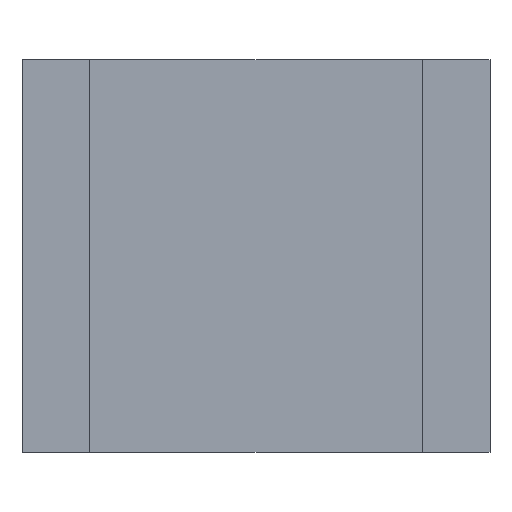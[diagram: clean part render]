
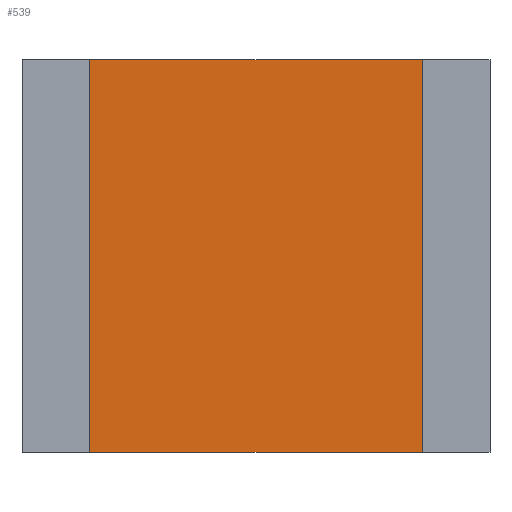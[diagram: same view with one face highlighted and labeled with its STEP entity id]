
A CAD part, front view. The second image highlights one B-rep face of the part: STEP entity #539.
In plain terms, the highlighted planar face has unit normal (0, -1, 0).
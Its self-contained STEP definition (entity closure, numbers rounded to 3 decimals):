
#32 = PLANE('',#33);
#33 = AXIS2_PLACEMENT_3D('',#34,#35,#36);
#34 = CARTESIAN_POINT('',(0.,0.275,-1.3));
#35 = DIRECTION('',(0.,0.,-1.));
#36 = DIRECTION('',(0.,1.,0.));
#136 = VERTEX_POINT('',#137);
#137 = CARTESIAN_POINT('',(1.1,0.15,-1.3));
#158 = EDGE_CURVE('',#136,#159,#161,.T.);
#159 = VERTEX_POINT('',#160);
#160 = CARTESIAN_POINT('',(-1.1,0.15,-1.3));
#161 = SURFACE_CURVE('',#162,(#166,#173),.PCURVE_S1.);
#162 = LINE('',#163,#164);
#163 = CARTESIAN_POINT('',(1.4,0.15,-1.3));
#164 = VECTOR('',#165,1.);
#165 = DIRECTION('',(-1.,0.,0.));
#166 = PCURVE('',#32,#167);
#167 = DEFINITIONAL_REPRESENTATION('',(#168),#172);
#168 = LINE('',#169,#170);
#169 = CARTESIAN_POINT('',(-0.125,1.4));
#170 = VECTOR('',#171,1.);
#171 = DIRECTION('',(0.,-1.));
#172 = ( GEOMETRIC_REPRESENTATION_CONTEXT(2) 
PARAMETRIC_REPRESENTATION_CONTEXT() REPRESENTATION_CONTEXT('2D SPACE',''
  ) );
#173 = PCURVE('',#174,#179);
#174 = PLANE('',#175);
#175 = AXIS2_PLACEMENT_3D('',#176,#177,#178);
#176 = CARTESIAN_POINT('',(1.4,0.15,-1.3));
#177 = DIRECTION('',(0.,-1.,0.));
#178 = DIRECTION('',(-1.,0.,0.));
#179 = DEFINITIONAL_REPRESENTATION('',(#180),#184);
#180 = LINE('',#181,#182);
#181 = CARTESIAN_POINT('',(0.,-0.));
#182 = VECTOR('',#183,1.);
#183 = DIRECTION('',(1.,0.));
#184 = ( GEOMETRIC_REPRESENTATION_CONTEXT(2) 
PARAMETRIC_REPRESENTATION_CONTEXT() REPRESENTATION_CONTEXT('2D SPACE',''
  ) );
#333 = PLANE('',#334);
#334 = AXIS2_PLACEMENT_3D('',#335,#336,#337);
#335 = CARTESIAN_POINT('',(-1.1,0.,-1.3));
#336 = DIRECTION('',(-1.,0.,0.));
#337 = DIRECTION('',(0.,1.,0.));
#524 = PLANE('',#525);
#525 = AXIS2_PLACEMENT_3D('',#526,#527,#528);
#526 = CARTESIAN_POINT('',(1.1,0.,-1.3));
#527 = DIRECTION('',(-1.,0.,0.));
#528 = DIRECTION('',(0.,1.,0.));
#539 = ADVANCED_FACE('',(#540),#174,.T.);
#540 = FACE_BOUND('',#541,.T.);
#541 = EDGE_LOOP('',(#542,#543,#566,#594));
#542 = ORIENTED_EDGE('',*,*,#158,.F.);
#543 = ORIENTED_EDGE('',*,*,#544,.T.);
#544 = EDGE_CURVE('',#136,#545,#547,.T.);
#545 = VERTEX_POINT('',#546);
#546 = CARTESIAN_POINT('',(1.1,0.15,1.3));
#547 = SURFACE_CURVE('',#548,(#552,#559),.PCURVE_S1.);
#548 = LINE('',#549,#550);
#549 = CARTESIAN_POINT('',(1.1,0.15,-1.3));
#550 = VECTOR('',#551,1.);
#551 = DIRECTION('',(0.,0.,1.));
#552 = PCURVE('',#174,#553);
#553 = DEFINITIONAL_REPRESENTATION('',(#554),#558);
#554 = LINE('',#555,#556);
#555 = CARTESIAN_POINT('',(0.3,0.));
#556 = VECTOR('',#557,1.);
#557 = DIRECTION('',(0.,-1.));
#558 = ( GEOMETRIC_REPRESENTATION_CONTEXT(2) 
PARAMETRIC_REPRESENTATION_CONTEXT() REPRESENTATION_CONTEXT('2D SPACE',''
  ) );
#559 = PCURVE('',#524,#560);
#560 = DEFINITIONAL_REPRESENTATION('',(#561),#565);
#561 = LINE('',#562,#563);
#562 = CARTESIAN_POINT('',(0.15,0.));
#563 = VECTOR('',#564,1.);
#564 = DIRECTION('',(0.,-1.));
#565 = ( GEOMETRIC_REPRESENTATION_CONTEXT(2) 
PARAMETRIC_REPRESENTATION_CONTEXT() REPRESENTATION_CONTEXT('2D SPACE',''
  ) );
#566 = ORIENTED_EDGE('',*,*,#567,.T.);
#567 = EDGE_CURVE('',#545,#568,#570,.T.);
#568 = VERTEX_POINT('',#569);
#569 = CARTESIAN_POINT('',(-1.1,0.15,1.3));
#570 = SURFACE_CURVE('',#571,(#575,#582),.PCURVE_S1.);
#571 = LINE('',#572,#573);
#572 = CARTESIAN_POINT('',(1.4,0.15,1.3));
#573 = VECTOR('',#574,1.);
#574 = DIRECTION('',(-1.,0.,0.));
#575 = PCURVE('',#174,#576);
#576 = DEFINITIONAL_REPRESENTATION('',(#577),#581);
#577 = LINE('',#578,#579);
#578 = CARTESIAN_POINT('',(0.,-2.6));
#579 = VECTOR('',#580,1.);
#580 = DIRECTION('',(1.,0.));
#581 = ( GEOMETRIC_REPRESENTATION_CONTEXT(2) 
PARAMETRIC_REPRESENTATION_CONTEXT() REPRESENTATION_CONTEXT('2D SPACE',''
  ) );
#582 = PCURVE('',#583,#588);
#583 = PLANE('',#584);
#584 = AXIS2_PLACEMENT_3D('',#585,#586,#587);
#585 = CARTESIAN_POINT('',(0.,0.275,1.3));
#586 = DIRECTION('',(0.,0.,-1.));
#587 = DIRECTION('',(0.,1.,0.));
#588 = DEFINITIONAL_REPRESENTATION('',(#589),#593);
#589 = LINE('',#590,#591);
#590 = CARTESIAN_POINT('',(-0.125,1.4));
#591 = VECTOR('',#592,1.);
#592 = DIRECTION('',(0.,-1.));
#593 = ( GEOMETRIC_REPRESENTATION_CONTEXT(2) 
PARAMETRIC_REPRESENTATION_CONTEXT() REPRESENTATION_CONTEXT('2D SPACE',''
  ) );
#594 = ORIENTED_EDGE('',*,*,#595,.F.);
#595 = EDGE_CURVE('',#159,#568,#596,.T.);
#596 = SURFACE_CURVE('',#597,(#601,#608),.PCURVE_S1.);
#597 = LINE('',#598,#599);
#598 = CARTESIAN_POINT('',(-1.1,0.15,-1.3));
#599 = VECTOR('',#600,1.);
#600 = DIRECTION('',(0.,0.,1.));
#601 = PCURVE('',#174,#602);
#602 = DEFINITIONAL_REPRESENTATION('',(#603),#607);
#603 = LINE('',#604,#605);
#604 = CARTESIAN_POINT('',(2.5,0.));
#605 = VECTOR('',#606,1.);
#606 = DIRECTION('',(0.,-1.));
#607 = ( GEOMETRIC_REPRESENTATION_CONTEXT(2) 
PARAMETRIC_REPRESENTATION_CONTEXT() REPRESENTATION_CONTEXT('2D SPACE',''
  ) );
#608 = PCURVE('',#333,#609);
#609 = DEFINITIONAL_REPRESENTATION('',(#610),#614);
#610 = LINE('',#611,#612);
#611 = CARTESIAN_POINT('',(0.15,0.));
#612 = VECTOR('',#613,1.);
#613 = DIRECTION('',(0.,-1.));
#614 = ( GEOMETRIC_REPRESENTATION_CONTEXT(2) 
PARAMETRIC_REPRESENTATION_CONTEXT() REPRESENTATION_CONTEXT('2D SPACE',''
  ) );
